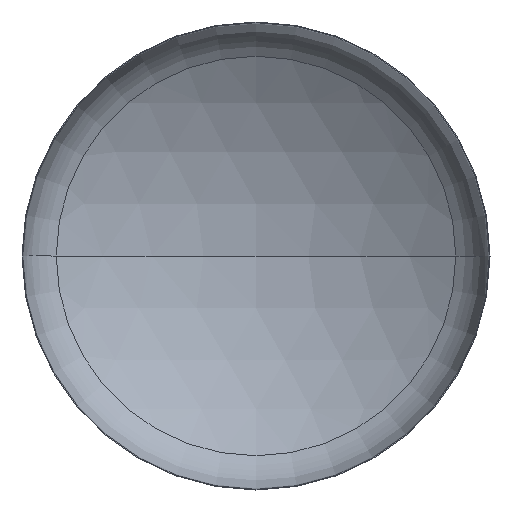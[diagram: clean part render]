
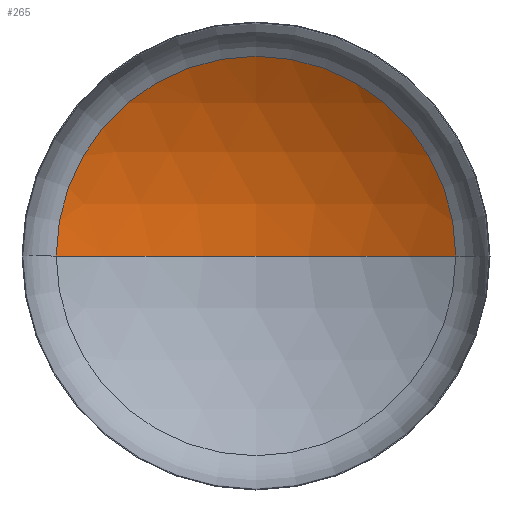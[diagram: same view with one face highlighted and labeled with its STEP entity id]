
A CAD part, front view. The second image highlights one B-rep face of the part: STEP entity #265.
In plain terms, the highlighted spherical face has radius 4000 mm.
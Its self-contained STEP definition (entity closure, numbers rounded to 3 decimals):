
#4 = DIRECTION ( 'NONE',  ( 0., 0., -1. ) ) ;
#5 = CARTESIAN_POINT ( 'NONE',  ( 0., -2707.064, 0. ) ) ;
#26 = DIRECTION ( 'NONE',  ( -1., 0., 0. ) ) ;
#30 = AXIS2_PLACEMENT_3D ( 'NONE', #236, #235, #256 ) ;
#54 = AXIS2_PLACEMENT_3D ( 'NONE', #125, #331, #175 ) ;
#55 = AXIS2_PLACEMENT_3D ( 'NONE', #5, #4, #26 ) ;
#60 = AXIS2_PLACEMENT_3D ( 'NONE', #194, #198, #354 ) ;
#74 = EDGE_LOOP ( 'NONE', ( #173, #234, #396 ) ) ;
#80 = FACE_OUTER_BOUND ( 'NONE', #74, .T. ) ;
#90 = SPHERICAL_SURFACE ( 'NONE', #30, 4000. ) ;
#108 = CIRCLE ( 'NONE', #55, 4000. ) ;
#123 = CARTESIAN_POINT ( 'NONE',  ( 0., 1292.936, 0. ) ) ;
#125 = CARTESIAN_POINT ( 'NONE',  ( 0., -2707.064, 0. ) ) ;
#162 = CARTESIAN_POINT ( 'NONE',  ( 2133.746, 676.297, 0. ) ) ;
#173 = ORIENTED_EDGE ( 'NONE', *, *, #181, .F. ) ;
#174 = EDGE_CURVE ( 'NONE', #267, #227, #217, .T. ) ;
#175 = DIRECTION ( 'NONE',  ( 1., 0., 0. ) ) ;
#176 = EDGE_CURVE ( 'NONE', #368, #267, #108, .T. ) ;
#181 = EDGE_CURVE ( 'NONE', #368, #227, #274, .T. ) ;
#194 = CARTESIAN_POINT ( 'NONE',  ( 0., 676.297, 0. ) ) ;
#198 = DIRECTION ( 'NONE',  ( 0., -1., 0. ) ) ;
#217 = CIRCLE ( 'NONE', #60, 2133.746 ) ;
#227 = VERTEX_POINT ( 'NONE', #276 ) ;
#234 = ORIENTED_EDGE ( 'NONE', *, *, #176, .T. ) ;
#235 = DIRECTION ( 'NONE',  ( 0., 0., -1. ) ) ;
#236 = CARTESIAN_POINT ( 'NONE',  ( 0., -2707.064, 0. ) ) ;
#256 = DIRECTION ( 'NONE',  ( -1., 0., 0. ) ) ;
#265 = ADVANCED_FACE ( 'NONE', ( #80 ), #90, .F. ) ;
#267 = VERTEX_POINT ( 'NONE', #162 ) ;
#274 = CIRCLE ( 'NONE', #54, 4000. ) ;
#276 = CARTESIAN_POINT ( 'NONE',  ( -2133.746, 676.297, 0. ) ) ;
#331 = DIRECTION ( 'NONE',  ( 0., 0., 1. ) ) ;
#354 = DIRECTION ( 'NONE',  ( 1., 0., 0. ) ) ;
#368 = VERTEX_POINT ( 'NONE', #123 ) ;
#396 = ORIENTED_EDGE ( 'NONE', *, *, #174, .T. ) ;
